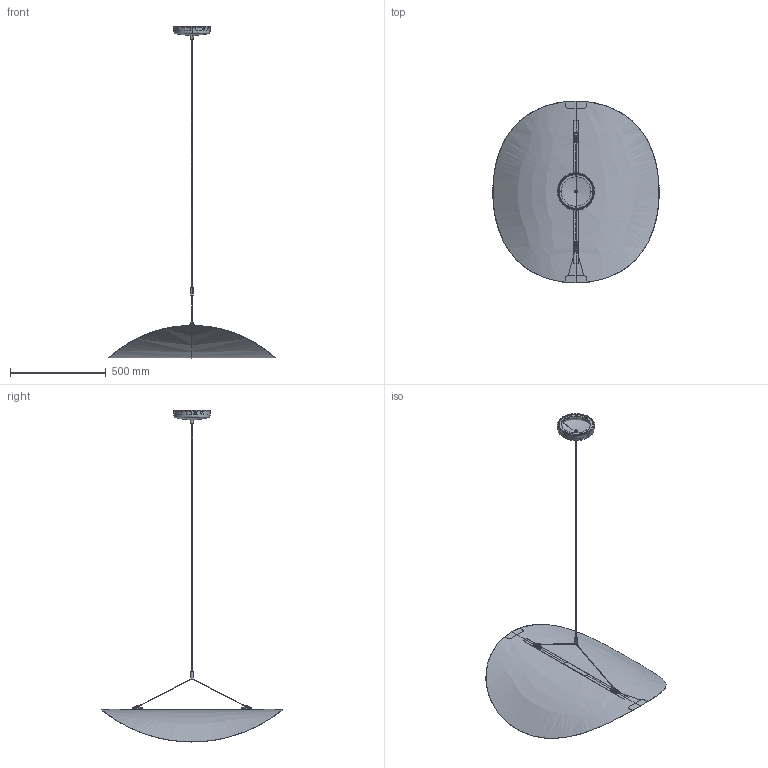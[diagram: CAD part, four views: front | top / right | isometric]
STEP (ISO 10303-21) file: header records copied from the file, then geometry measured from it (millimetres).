
FILE_DESCRIPTION(/* description */ (''),/* implementation_level */ '2;1');
FILE_NAME(/* name */ 'Tense Pendant Ø90 Download Drawing',/* time_stamp */ '2021-01-21T10:32:51+01:00',/* author */ (''),/* organization */ (''),/* preprocessor_version */ 'ST-DEVELOPER v15',/* originating_system */ '',/* authorisation */ '');
FILE_SCHEMA (('AUTOMOTIVE_DESIGN'));
Length unit declared in the file: millimetre
Products named in the file (1): Document
Bounding box: 869.18 x 950 x 1734.32 mm (x, y, z)
Volume: 426151.7 mm3; surface area: 3203265.9 mm2
Topology: 4 solids, 11 shells, 813 faces, 2016 edges, 1279 vertices
Faces by surface type: plane 531, bspline 282
Entity records: 33149 total; most frequent: CARTESIAN_POINT 19966, ORIENTED_EDGE 3973, EDGE_CURVE 2012, B_SPLINE_CURVE_WITH_KNOTS 1561, VERTEX_POINT 1276, EDGE_LOOP 928, ADVANCED_FACE 812, FACE_OUTER_BOUND 812
